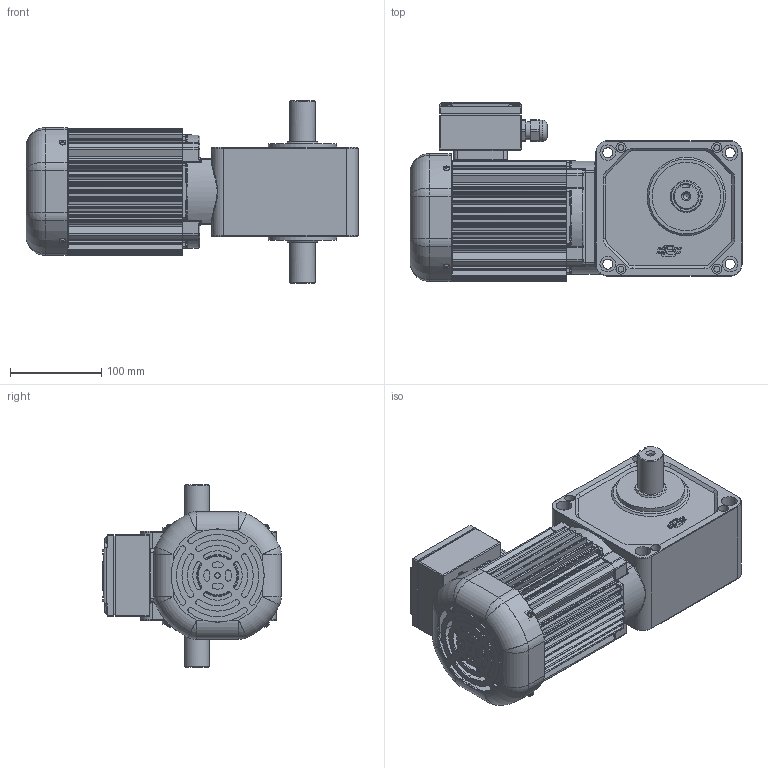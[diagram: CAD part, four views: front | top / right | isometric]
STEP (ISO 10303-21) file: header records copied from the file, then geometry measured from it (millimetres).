
FILE_DESCRIPTION(/* description */ (''),/* implementation_level */ '2;1');
FILE_NAME(/* name */ 'Z:\동력 3D 파일\PCS28B_0.4kW_3D.stp',/* time_stamp */ '2021-11-09T11:10:46+09:00',/* author */ ('jaebok'),/* organization */ (''),/* preprocessor_version */ 'ST-DEVELOPER v18.1',/* originating_system */ 'Autodesk Inventor 2022',/* authorisation */ '');
FILE_SCHEMA (('AUTOMOTIVE_DESIGN { 1 0 10303 214 3 1 1 }'));
Products named in the file (1): 부품48
Bounding box: 363.5 x 196 x 200 mm (x, y, z)
Volume: 2289935.3 mm3; surface area: 585798.3 mm2
Topology: 1 solids, 26 shells, 2022 faces, 5226 edges, 3293 vertices
Faces by surface type: plane 864, cylinder 745, torus 165, bspline 112, cone 104, sphere 32
Full cylindrical faces by diameter (mm): 3.242 x5, 3.25 x1, 3.5 x4, 3.6 x4, 4 x21, 5 x13, 5.386 x4, 6 x13, 6.5 x4, 6.647 x2, 7 x12, 8 x1, 10 x1, 11 x8, 12.5 x1, 15 x1, 17 x12, 18 x1, 20 x2, 21 x1, 23.6 x1, 25 x1, 28 x2, 30 x1, 31 x1, 35 x2, 40 x1, 44 x1, 50 x1, 50.562 x1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
Entity records: 68074 total; most frequent: CARTESIAN_POINT 16228, DIRECTION 10742, ORIENTED_EDGE 10332, EDGE_CURVE 5166, AXIS2_PLACEMENT_3D 4140, VERTEX_POINT 3293, LINE 2462, VECTOR 2462
